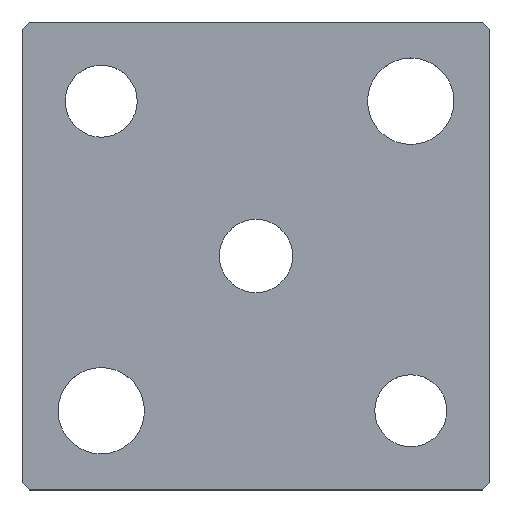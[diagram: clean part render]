
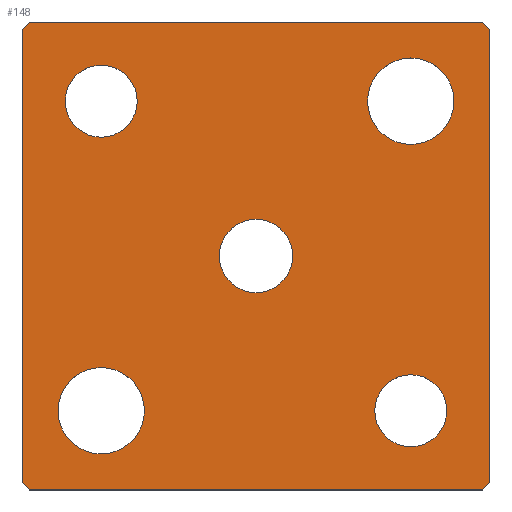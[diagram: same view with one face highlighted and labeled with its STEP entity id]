
A CAD part, top view. The second image highlights one B-rep face of the part: STEP entity #148.
In plain terms, the highlighted planar face has unit normal (0, 0, 1).
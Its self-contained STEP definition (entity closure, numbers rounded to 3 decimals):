
#117=CIRCLE('',#503,5.1);
#118=CIRCLE('',#504,5.1);
#119=CIRCLE('',#505,5.);
#120=CIRCLE('',#506,5.);
#121=CIRCLE('',#507,6.);
#122=CIRCLE('',#508,6.);
#123=CIRCLE('',#509,6.);
#124=CIRCLE('',#510,6.);
#125=CIRCLE('',#511,5.);
#126=CIRCLE('',#512,5.);
#133=FACE_BOUND('',#201,.T.);
#134=FACE_BOUND('',#202,.T.);
#135=FACE_BOUND('',#203,.T.);
#136=FACE_BOUND('',#204,.T.);
#137=FACE_BOUND('',#205,.T.);
#138=FACE_BOUND('',#206,.T.);
#148=ADVANCED_FACE('',(#133,#134,#135,#136,#137,#138),#168,.T.);
#168=PLANE('',#513);
#201=EDGE_LOOP('',(#267,#268,#269,#270,#271,#272,#273,#274));
#202=EDGE_LOOP('',(#275,#276));
#203=EDGE_LOOP('',(#277,#278));
#204=EDGE_LOOP('',(#279,#280));
#205=EDGE_LOOP('',(#281,#282));
#206=EDGE_LOOP('',(#283,#284));
#267=ORIENTED_EDGE('',*,*,#362,.T.);
#268=ORIENTED_EDGE('',*,*,#366,.T.);
#269=ORIENTED_EDGE('',*,*,#369,.T.);
#270=ORIENTED_EDGE('',*,*,#372,.T.);
#271=ORIENTED_EDGE('',*,*,#375,.T.);
#272=ORIENTED_EDGE('',*,*,#378,.T.);
#273=ORIENTED_EDGE('',*,*,#381,.T.);
#274=ORIENTED_EDGE('',*,*,#384,.T.);
#275=ORIENTED_EDGE('',*,*,#395,.T.);
#276=ORIENTED_EDGE('',*,*,#396,.T.);
#277=ORIENTED_EDGE('',*,*,#397,.T.);
#278=ORIENTED_EDGE('',*,*,#398,.T.);
#279=ORIENTED_EDGE('',*,*,#399,.T.);
#280=ORIENTED_EDGE('',*,*,#400,.T.);
#281=ORIENTED_EDGE('',*,*,#401,.T.);
#282=ORIENTED_EDGE('',*,*,#402,.T.);
#283=ORIENTED_EDGE('',*,*,#403,.T.);
#284=ORIENTED_EDGE('',*,*,#404,.T.);
#326=VERTEX_POINT('',#643);
#327=VERTEX_POINT('',#645);
#330=VERTEX_POINT('',#652);
#332=VERTEX_POINT('',#658);
#334=VERTEX_POINT('',#664);
#336=VERTEX_POINT('',#670);
#338=VERTEX_POINT('',#676);
#340=VERTEX_POINT('',#682);
#351=VERTEX_POINT('',#711);
#352=VERTEX_POINT('',#712);
#353=VERTEX_POINT('',#715);
#354=VERTEX_POINT('',#716);
#355=VERTEX_POINT('',#719);
#356=VERTEX_POINT('',#720);
#357=VERTEX_POINT('',#723);
#358=VERTEX_POINT('',#724);
#359=VERTEX_POINT('',#727);
#360=VERTEX_POINT('',#728);
#362=EDGE_CURVE('',#327,#326,#416,.T.);
#366=EDGE_CURVE('',#326,#330,#420,.T.);
#369=EDGE_CURVE('',#330,#332,#423,.T.);
#372=EDGE_CURVE('',#332,#334,#426,.T.);
#375=EDGE_CURVE('',#334,#336,#429,.T.);
#378=EDGE_CURVE('',#336,#338,#432,.T.);
#381=EDGE_CURVE('',#338,#340,#435,.T.);
#384=EDGE_CURVE('',#340,#327,#438,.T.);
#395=EDGE_CURVE('',#351,#352,#117,.T.);
#396=EDGE_CURVE('',#352,#351,#118,.T.);
#397=EDGE_CURVE('',#353,#354,#119,.T.);
#398=EDGE_CURVE('',#354,#353,#120,.T.);
#399=EDGE_CURVE('',#355,#356,#121,.T.);
#400=EDGE_CURVE('',#356,#355,#122,.T.);
#401=EDGE_CURVE('',#357,#358,#123,.T.);
#402=EDGE_CURVE('',#358,#357,#124,.T.);
#403=EDGE_CURVE('',#359,#360,#125,.T.);
#404=EDGE_CURVE('',#360,#359,#126,.T.);
#416=LINE('',#644,#450);
#420=LINE('',#653,#454);
#423=LINE('',#659,#457);
#426=LINE('',#665,#460);
#429=LINE('',#671,#463);
#432=LINE('',#677,#466);
#435=LINE('',#683,#469);
#438=LINE('',#687,#472);
#450=VECTOR('',#527,1.);
#454=VECTOR('',#533,1.);
#457=VECTOR('',#538,1.);
#460=VECTOR('',#543,1.);
#463=VECTOR('',#548,1.);
#466=VECTOR('',#553,1.);
#469=VECTOR('',#558,1.);
#472=VECTOR('',#563,1.);
#503=AXIS2_PLACEMENT_3D('',#710,#588,#589);
#504=AXIS2_PLACEMENT_3D('',#713,#590,#591);
#505=AXIS2_PLACEMENT_3D('',#714,#592,#593);
#506=AXIS2_PLACEMENT_3D('',#717,#594,#595);
#507=AXIS2_PLACEMENT_3D('',#718,#596,#597);
#508=AXIS2_PLACEMENT_3D('',#721,#598,#599);
#509=AXIS2_PLACEMENT_3D('',#722,#600,#601);
#510=AXIS2_PLACEMENT_3D('',#725,#602,#603);
#511=AXIS2_PLACEMENT_3D('',#726,#604,#605);
#512=AXIS2_PLACEMENT_3D('',#729,#606,#607);
#513=AXIS2_PLACEMENT_3D('',#730,#608,#609);
#527=DIRECTION('',(0.707,-0.707,0.));
#533=DIRECTION('',(1.,0.,0.));
#538=DIRECTION('',(0.707,0.707,0.));
#543=DIRECTION('',(0.,1.,0.));
#548=DIRECTION('',(-0.707,0.707,0.));
#553=DIRECTION('',(-1.,0.,0.));
#558=DIRECTION('',(-0.707,-0.707,0.));
#563=DIRECTION('',(0.,-1.,0.));
#588=DIRECTION('',(0.,0.,-1.));
#589=DIRECTION('',(-1.,0.,0.));
#590=DIRECTION('',(0.,0.,-1.));
#591=DIRECTION('',(1.,0.,0.));
#592=DIRECTION('',(0.,0.,-1.));
#593=DIRECTION('',(-1.,0.,0.));
#594=DIRECTION('',(0.,0.,-1.));
#595=DIRECTION('',(1.,0.,0.));
#596=DIRECTION('',(0.,0.,-1.));
#597=DIRECTION('',(-1.,0.,0.));
#598=DIRECTION('',(0.,0.,-1.));
#599=DIRECTION('',(1.,0.,0.));
#600=DIRECTION('',(0.,0.,-1.));
#601=DIRECTION('',(-1.,0.,0.));
#602=DIRECTION('',(0.,0.,-1.));
#603=DIRECTION('',(1.,0.,0.));
#604=DIRECTION('',(0.,0.,-1.));
#605=DIRECTION('',(-1.,0.,0.));
#606=DIRECTION('',(0.,0.,-1.));
#607=DIRECTION('',(1.,0.,0.));
#608=DIRECTION('',(0.,0.,1.));
#609=DIRECTION('',(0.,-1.,0.));
#643=CARTESIAN_POINT('',(-31.5,-32.5,5.));
#644=CARTESIAN_POINT('',(-32.5,-31.5,5.));
#645=CARTESIAN_POINT('',(-32.5,-31.5,5.));
#652=CARTESIAN_POINT('',(31.5,-32.5,5.));
#653=CARTESIAN_POINT('',(-31.5,-32.5,5.));
#658=CARTESIAN_POINT('',(32.5,-31.5,5.));
#659=CARTESIAN_POINT('',(32.5,-31.5,5.));
#664=CARTESIAN_POINT('',(32.5,31.5,5.));
#665=CARTESIAN_POINT('',(32.5,31.5,5.));
#670=CARTESIAN_POINT('',(31.5,32.5,5.));
#671=CARTESIAN_POINT('',(31.5,32.5,5.));
#676=CARTESIAN_POINT('',(-31.5,32.5,5.));
#677=CARTESIAN_POINT('',(-31.5,32.5,5.));
#682=CARTESIAN_POINT('',(-32.5,31.5,5.));
#683=CARTESIAN_POINT('',(-32.5,31.5,5.));
#687=CARTESIAN_POINT('',(-32.5,31.5,5.));
#710=CARTESIAN_POINT('',(0.,0.,5.));
#711=CARTESIAN_POINT('',(0.,5.1,5.));
#712=CARTESIAN_POINT('',(0.,-5.1,5.));
#713=CARTESIAN_POINT('',(0.,0.,5.));
#714=CARTESIAN_POINT('',(-21.5,21.5,5.));
#715=CARTESIAN_POINT('',(-21.5,26.5,5.));
#716=CARTESIAN_POINT('',(-21.5,16.5,5.));
#717=CARTESIAN_POINT('',(-21.5,21.5,5.));
#718=CARTESIAN_POINT('',(21.5,21.5,5.));
#719=CARTESIAN_POINT('',(21.5,27.5,5.));
#720=CARTESIAN_POINT('',(21.5,15.5,5.));
#721=CARTESIAN_POINT('',(21.5,21.5,5.));
#722=CARTESIAN_POINT('',(-21.5,-21.5,5.));
#723=CARTESIAN_POINT('',(-21.5,-15.5,5.));
#724=CARTESIAN_POINT('',(-21.5,-27.5,5.));
#725=CARTESIAN_POINT('',(-21.5,-21.5,5.));
#726=CARTESIAN_POINT('',(21.5,-21.5,5.));
#727=CARTESIAN_POINT('',(21.5,-16.5,5.));
#728=CARTESIAN_POINT('',(21.5,-26.5,5.));
#729=CARTESIAN_POINT('',(21.5,-21.5,5.));
#730=CARTESIAN_POINT('',(-32.5,-31.5,5.));
